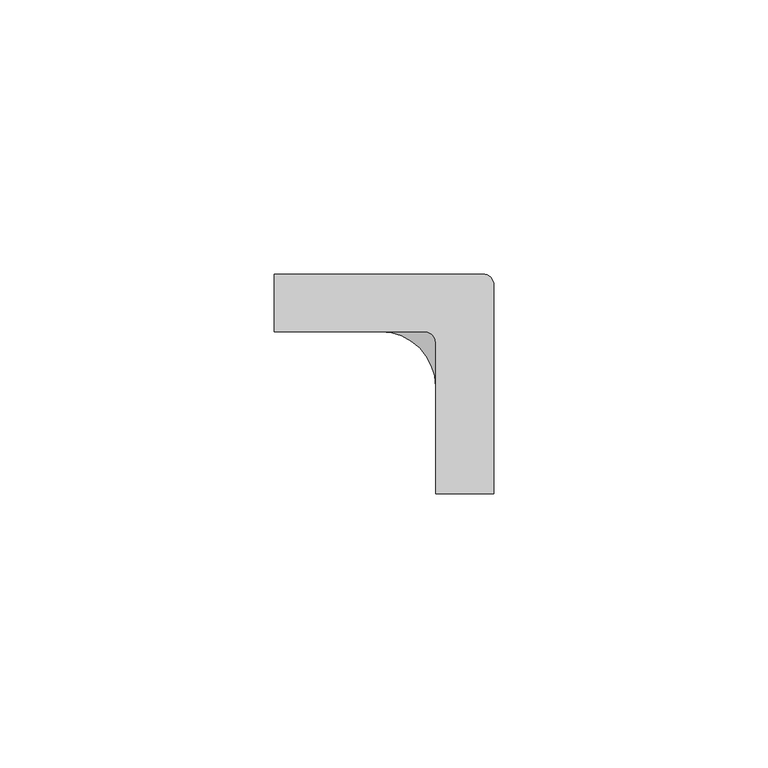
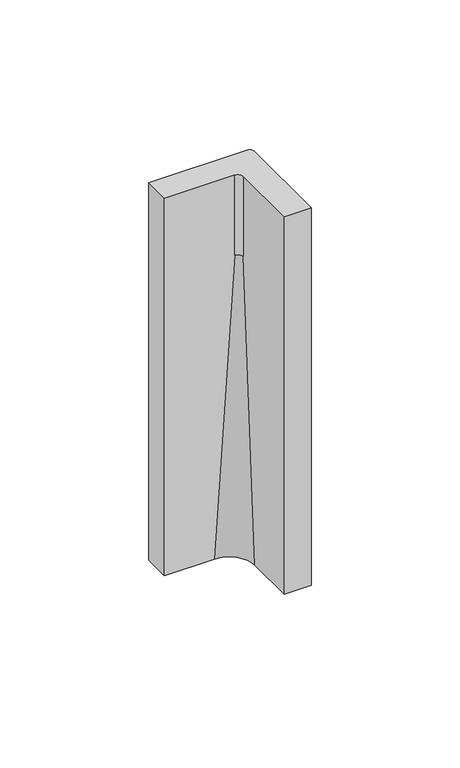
"""IFC4 building model written with IfcOpenShell, lengths in millimetres: proxy geometry, ROSA GRES_040A (corte) : Pieza 040A_Tresor_Java_Anti-Slip."""

import ifcopenshell
import ifcopenshell.guid

model = None  # the IFC model being written
_history = None  # IfcOwnerHistory: only IFC2X3 demands one
_inside = {}  # id of a spatial element -> (the spatial element, [elements in it])
_under = {}  # id of a project, library or spatial element -> (it, [spatial elements below it])
_declared = {}  # id of a project -> (the project, [libraries it declares])
_typed = {}  # id of a type object -> (the type object, [elements of that type])
_made_of = {}  # id of a material, layer set ... -> (it, [elements and type objects made of it])


def new_model(schema):
    """Start an empty IFC model of exactly this schema.

    Asked for "IFC4X3", IfcOpenShell would pick the latest addendum, in which some entities
    have other attributes; the version numbers below select the first issue.
    IFC2X3 requires an IfcOwnerHistory on every rooted entity: one is made here for all.
    """
    global model, _history
    if schema == "IFC4X3":
        model = ifcopenshell.file(schema_version=(4, 3, 0, 0))
    else:
        model = ifcopenshell.file(schema=schema)
    _inside.clear()
    _under.clear()
    _declared.clear()
    _typed.clear()
    _made_of.clear()
    _history = None
    if model.schema == "IFC2X3":
        org = make("IfcOrganization", Name="unknown")
        user = make(
            "IfcPersonAndOrganization",
            ThePerson=make("IfcPerson", FamilyName="unknown"),
            TheOrganization=org,
        )
        app = make(
            "IfcApplication",
            ApplicationDeveloper=org,
            Version="unknown",
            ApplicationFullName="unknown",
            ApplicationIdentifier="unknown",
        )
        _history = make(
            "IfcOwnerHistory",
            OwningUser=user,
            OwningApplication=app,
            ChangeAction="ADDED",
            CreationDate=0,
        )
    return model


def make(cls, **values):
    """One entity of the class cls with the attributes given. An attribute that is None is left unset."""
    return model.create_entity(
        cls, **{name: value for name, value in values.items() if value is not None}
    )


def rooted(cls, **values):
    """An entity with a GlobalId (a new one), such as an element, a storey or a relation."""
    return make(cls, GlobalId=ifcopenshell.guid.new(), OwnerHistory=_history, **values)


def si_unit(unit_type, name, prefix=None):
    """IfcSIUnit, for example si_unit("LENGTHUNIT", "METRE", prefix="MILLI")."""
    return make("IfcSIUnit", UnitType=unit_type, Prefix=prefix, Name=name)


def assignment(units):
    """IfcUnitAssignment: the units of a project."""
    return None if units is None else make("IfcUnitAssignment", Units=units)


def point(xyz):
    """IfcCartesianPoint."""
    return None if xyz is None else make("IfcCartesianPoint", Coordinates=xyz)


def direction(xyz):
    """IfcDirection."""
    return None if xyz is None else make("IfcDirection", DirectionRatios=xyz)


def frame(location, z_axis=None, x_axis=None):
    """IfcAxis2Placement3D, a coordinate frame: its origin and axes. An axis left out is left unset."""
    return make(
        "IfcAxis2Placement3D",
        Location=point(location),
        Axis=direction(z_axis),
        RefDirection=direction(x_axis),
    )


def origin():
    """The frame at (0, 0, 0) with its axes left unset."""
    return frame((0.0, 0.0, 0.0))


def place(relative_to, where):
    """IfcLocalPlacement: puts the frame where relative to a parent placement (None: the world)."""
    return make(
        "IfcLocalPlacement", PlacementRelTo=relative_to, RelativePlacement=where
    )


def context(
    kind, dimensions, precision=None, world=None, true_north=None, identifier=None
):
    """IfcGeometricRepresentationContext, for example the 3D "Model" context."""
    return make(
        "IfcGeometricRepresentationContext",
        ContextIdentifier=identifier,
        ContextType=kind,
        CoordinateSpaceDimension=dimensions,
        Precision=precision,
        WorldCoordinateSystem=world,
        TrueNorth=true_north,
    )


def project(units=None, contexts=None):
    """IfcProject with its units and contexts."""
    return rooted(
        "IfcProject",
        Name="project",
        RepresentationContexts=contexts,
        UnitsInContext=assignment(units),
    )


def spatial(cls, under=None, at=None, **own):
    """A site, building, storey or space (cls), placed at a placement, below another one or the project."""
    s = rooted(cls, ObjectPlacement=at, **own)
    if under is not None:
        _under.setdefault(under.id(), (under, []))[1].append(s)
    return s


def polyline(points):
    """IfcPolyline through the points."""
    return make("IfcPolyline", Points=[point(p) for p in points])


def circle_curve(where, radius):
    """IfcCircle in the frame where."""
    return make("IfcCircle", Position=where, Radius=radius)


def shape(context_of_items, identifier, shape_type, items):
    """IfcShapeRepresentation: the items that make up one representation, for example the "Body"."""
    return make(
        "IfcShapeRepresentation",
        ContextOfItems=context_of_items,
        RepresentationIdentifier=identifier,
        RepresentationType=shape_type,
        Items=items,
    )


def source(mapping_origin, context_of_items, identifier, shape_type, items):
    """IfcRepresentationMap: a shape defined once, which mapped items show again and again."""
    return make(
        "IfcRepresentationMap",
        MappingOrigin=mapping_origin,
        MappedRepresentation=shape(context_of_items, identifier, shape_type, items),
    )


def transform(
    local_origin,
    x_axis=None,
    y_axis=None,
    z_axis=None,
    scale=None,
    scale2=None,
    scale3=None,
    uniform=True,
):
    """IfcCartesianTransformationOperator3D, or its non-uniform kind. x_axis, y_axis, z_axis: its Axis1, 2, 3."""
    if uniform:
        return make(
            "IfcCartesianTransformationOperator3D",
            Axis1=direction(x_axis),
            Axis2=direction(y_axis),
            LocalOrigin=point(local_origin),
            Scale=scale,
            Axis3=direction(z_axis),
        )
    return make(
        "IfcCartesianTransformationOperator3DnonUniform",
        Axis1=direction(x_axis),
        Axis2=direction(y_axis),
        LocalOrigin=point(local_origin),
        Scale=scale,
        Axis3=direction(z_axis),
        Scale2=scale2,
        Scale3=scale3,
    )


def mapped(mapping_source, mapping_target):
    """IfcMappedItem: shows the shape of a source again, moved by a transform."""
    return make(
        "IfcMappedItem", MappingSource=mapping_source, MappingTarget=mapping_target
    )


def made_of(thing, what):
    """Note that an element or type object is made of a material, layer set ...; save() writes the relation."""
    if what is not None:
        _made_of.setdefault(what.id(), (what, []))[1].append(thing)
    return thing


def element(
    cls,
    number,
    at=None,
    inside=None,
    cuts=None,
    type_object=None,
    material=None,
    context=None,
    identifier="Body",
    shape_type=None,
    held_by="IfcProductDefinitionShape",
    body=None,
    shapes=None,
    **own,
):
    """One element of the class cls, such as IfcWall. Its Tag is "e" and its number.

    at: its placement. inside: the storey or other place that contains it. cuts: it is an
    opening in that element (IfcRelVoidsElement). A single representation is given by context,
    identifier, shape_type and body (its items); several are given by shapes. held_by: the class
    of the entity that holds the representations. save() writes the other relations.
    """
    e = rooted(cls, Tag="e%d" % number, ObjectPlacement=at, **own)
    if body is not None:
        shapes = [shape(context, identifier, shape_type, body)]
    if shapes is not None:
        e.Representation = make(held_by, Representations=shapes)
    if inside is not None:
        _inside.setdefault(inside.id(), (inside, []))[1].append(e)
    if cuts is not None:
        rooted(
            "IfcRelVoidsElement", RelatingBuildingElement=cuts, RelatedOpeningElement=e
        )
    if type_object is not None:
        _typed.setdefault(type_object.id(), (type_object, []))[1].append(e)
    return made_of(e, material)


def aggregate(whole, parts):
    """IfcRelAggregates: a whole, such as a stair, and the parts it consists of."""
    return rooted("IfcRelAggregates", RelatingObject=whole, RelatedObjects=parts)


def save(model, path):
    """Write the relations noted so far, then the file.

    IfcRelAggregates (storeys below a building ...), IfcRelContainedInSpatialStructure (elements
    in a storey), IfcRelDefinesByType, IfcRelAssociatesMaterial and IfcRelDeclares: one each for
    every whole, place, type object, material and project.
    """
    for whole, parts in _under.values():
        aggregate(whole, parts)
    for where, things in _inside.values():
        rooted(
            "IfcRelContainedInSpatialStructure",
            RelatedElements=things,
            RelatingStructure=where,
        )
    for kind, things in _typed.values():
        rooted("IfcRelDefinesByType", RelatedObjects=things, RelatingType=kind)
    for what, things in _made_of.values():
        rooted("IfcRelAssociatesMaterial", RelatedObjects=things, RelatingMaterial=what)
    for by, libraries in _declared.values():
        rooted("IfcRelDeclares", RelatingContext=by, RelatedDefinitions=libraries)
    model.write(path)


def plane_surface(at):
    """IfcPlane: the flat surface through the origin of the frame at, square to its z axis."""
    return make("IfcPlane", Position=at)


def cylinder_surface(at, radius):
    """IfcCylindricalSurface: all points at the distance radius from the z axis of the frame at."""
    return make("IfcCylindricalSurface", Position=at, Radius=radius)


def revolved_surface(curve, axis_point, axis_direction):
    """IfcSurfaceOfRevolution: the curve turned about the line through axis_point along axis_direction."""
    return make(
        "IfcSurfaceOfRevolution",
        SweptCurve=make("IfcArbitraryOpenProfileDef", ProfileType="CURVE", Curve=curve),
        AxisPosition=make("IfcAxis1Placement", Location=point(axis_point), Axis=direction(axis_direction)),
    )


def spline_surface(u_degree, v_degree, points, u_multiplicities, v_multiplicities, u_knots, v_knots, weights=None):
    """IfcBSplineSurfaceWithKnots; with weights, IfcRationalBSplineSurfaceWithKnots. points: one row for each step in u."""
    own = dict(
        UDegree=u_degree,
        VDegree=v_degree,
        ControlPointsList=[[point(p) for p in row] for row in points],
        SurfaceForm="UNSPECIFIED",
        UClosed=False,
        VClosed=False,
        SelfIntersect=False,
        UMultiplicities=u_multiplicities,
        VMultiplicities=v_multiplicities,
        UKnots=u_knots,
        VKnots=v_knots,
        KnotSpec="UNSPECIFIED",
    )
    if weights is None:
        return make("IfcBSplineSurfaceWithKnots", **own)
    return make("IfcRationalBSplineSurfaceWithKnots", WeightsData=weights, **own)


def advanced_brep(points, edges, surfaces, faces):
    """IfcAdvancedBrep: a solid bounded by faces that lie on surfaces and meet in shared edges.

    An edge is (start, end): straight between two places in points (the first is 0);
    or (start, end, curve); or (start, end, curve, False) where it runs against its curve.
    A face is (place in surfaces, loops), or (place, loops, False) where it looks against
    its surface's normal. A loop lists edges by number (the first is 1), with a minus sign
    where the edge is run from its end to its start. The first loop is the outer one.
    """
    corners = [point(p) for p in points]
    vertices = [make("IfcVertexPoint", VertexGeometry=c) for c in corners]
    made = []
    for start, end, *more in edges:
        made.append(
            make(
                "IfcEdgeCurve",
                EdgeStart=vertices[start],
                EdgeEnd=vertices[end],
                EdgeGeometry=more[0] if more else make("IfcPolyline", Points=[corners[start], corners[end]]),
                SameSense=more[1] if len(more) > 1 else True,
            )
        )
    hull = []
    for where, loops, *sense in faces:
        bounds = []
        for j, loop in enumerate(loops):
            ring = [make("IfcOrientedEdge", EdgeElement=made[abs(k) - 1], Orientation=k > 0) for k in loop]
            bounds.append(
                make(
                    "IfcFaceOuterBound" if j == 0 else "IfcFaceBound",
                    Bound=make("IfcEdgeLoop", EdgeList=ring),
                    Orientation=True,
                )
            )
        hull.append(make("IfcAdvancedFace", Bounds=bounds, FaceSurface=surfaces[where], SameSense=sense[0] if sense else True))
    return make("IfcAdvancedBrep", Outer=make("IfcClosedShell", CfsFaces=hull))


def generic_models_70f451dc(model_context):
    return source(origin(), model_context, "Body", "AdvancedBrep", [
        advanced_brep(
        [(-40.0650814, -10.5047871, 155.0), (-12.6043336, -10.5047871, 155.0), (-10.6043336, -12.5047871, 155.0), (-10.6043336, -40.0344708, 155.0), (0.0, -40.0735975, 155.0), (0.0, -2.0, 155.0), (-2.0, 0.0, 155.0), (-40.079289, 0.0, 155.0), (-12.6043336, -10.5047871, 122.0), (-10.6043336, -12.5047871, 122.0), (0.0, -2.0, 122.0), (-2.0, 0.0, 122.0), (-40.079289, 0.0, 0.0), (-17.0, 0.0, 0.0), (0.0, -17.0, 0.0), (0.0, -40.0735975, 0.0), (-10.6043336, -40.0344708, 0.0), (-10.6043336, -20.5047871, 0.0), (-20.6043336, -10.5047871, 0.0), (-40.0650814, -10.5047871, 0.0)],
        [
            (0, 1),
            (1, 2, circle_curve(frame((-12.6043336, -12.5047871, 155.0), z_axis=(0.0, 0.0, -1.0), x_axis=(1.0, 0.0, 0.0)), 2.0)),
            (2, 3),
            (3, 4),
            (4, 5),
            (5, 6, circle_curve(frame((-2.0, -2.0, 155.0), z_axis=(0.0, 0.0, 1.0), x_axis=(1.0, 0.0, 0.0)), 2.0)),
            (6, 7),
            (7, 0),
            (1, 8),
            (8, 9, circle_curve(frame((-12.6043336, -12.5047871, 122.0), z_axis=(0.0, 0.0, -1.0), x_axis=(1.0, 0.0, 0.0)), 2.0)),
            (9, 2),
            (5, 10),
            (10, 11, circle_curve(frame((-2.0, -2.0, 122.0), z_axis=(0.0, 0.0, 1.0), x_axis=(1.0, 0.0, 0.0)), 2.0)),
            (11, 6),
            (12, 13),
            (13, 14, circle_curve(frame((-17.0, -17.0, 0.0), z_axis=(0.0, 0.0, -1.0), x_axis=(1.0, 0.0, 0.0)), 17.0)),
            (14, 15),
            (15, 16),
            (16, 17),
            (17, 18, circle_curve(frame((-20.6043336, -20.5047871, 0.0), z_axis=(0.0, 0.0, 1.0), x_axis=(1.0, 0.0, 0.0)), 10.0)),
            (18, 19),
            (19, 12),
            (12, 7),
            (11, 13),
            (10, 14),
            (4, 15),
            (3, 16),
            (9, 17),
            (18, 8),
            (0, 19),
        ],
        [
            plane_surface(frame((-40.0650814, -10.5047871, 155.0), z_axis=(0.0, 0.0, 1.0), x_axis=(1.0, 0.0, 0.0))),
            revolved_surface(polyline([(-10.6043336, -12.5047871, 122.0), (-10.6043336, -12.5047871, 155.0)]), (-12.6043336, -12.5047871, 122.0), (0.0, 0.0, -1.0)),
            cylinder_surface(frame((-2.0, -2.0, 122.0), z_axis=(0.0, 0.0, 1.0), x_axis=(1.0, 0.0, 0.0)), 2.0),
            plane_surface(frame((-17.3696714, -17.3278037, 0.0), z_axis=(0.0, 0.0, -1.0), x_axis=(0.0, -1.0, 0.0))),
            plane_surface(frame((-21.0396445, 0.0, 122.0), z_axis=(0.0, 1.0, 0.0), x_axis=(1.0, 0.0, 0.0))),
            spline_surface(2, 1, [[(-2.0, 0.0, 122.0), (-17.0, 0.0, 0.0)], [(0.0, 0.0, 122.0), (0.0, 0.0, 0.0)], [(0.0, -2.0, 122.0), (0.0, -17.0, 0.0)]], [3, 3], [2, 2], [0.0, 1.0], [0.0, 1.0], weights=[[1.0, 1.0], [0.7071067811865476, 0.7071067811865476], [1.0, 1.0]]),
            plane_surface(frame((0.0, -21.0367988, 122.0), z_axis=(1.0, 0.0, 0.0), x_axis=(0.0, -1.0, 0.0))),
            plane_surface(frame((-5.3021668, -40.0540342, 122.0), z_axis=(-0.0036896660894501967, -0.9999931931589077, 0.0), x_axis=(-0.9999931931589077, 0.0036896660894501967, 0.0))),
            plane_surface(frame((-10.6043336, -26.269629, 122.0), z_axis=(-1.0, 0.0, 0.0), x_axis=(0.0, 1.0, 0.0))),
            plane_surface(frame((-26.3347075, -10.5047871, 122.0), z_axis=(0.0, -1.0, 0.0), x_axis=(-1.0, 0.0, 0.0))),
            plane_surface(frame((-40.0721852, -5.2523936, 122.0), z_axis=(-0.9999990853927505, -0.001352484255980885, 0.0), x_axis=(-0.001352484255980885, 0.9999990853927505, 0.0))),
            spline_surface(2, 1, [[(-10.6043336, -12.5047871, 122.0), (-10.6043336, -20.5047871, 0.0)], [(-10.6043336, -10.5047871, 122.0), (-10.604333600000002, -10.504787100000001, 0.0)], [(-12.6043336, -10.5047871, 122.0), (-20.6043336, -10.5047871, 0.0)]], [3, 3], [2, 2], [0.0, 1.0], [0.0, 1.0], weights=[[1.0, 1.0], [0.7071067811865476, 0.7071067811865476], [1.0, 1.0]]),
        ],
        [
            (0, [[1, 2, 3, 4, 5, 6, 7, 8]]),
            (1, [[-2, 9, 10, 11]]),
            (2, [[-6, 12, 13, 14]]),
            (3, [[15, 16, 17, 18, 19, 20, 21, 22]]),
            (4, [[-15, 23, -7, -14, 24]]),
            (5, [[-16, -24, -13, 25]]),
            (6, [[-17, -25, -12, -5, 26]]),
            (7, [[-18, -26, -4, 27]]),
            (8, [[-19, -27, -3, -11, 28]]),
            (9, [[-21, 29, -9, -1, 30]]),
            (10, [[-23, -22, -30, -8]]),
            (11, [[-20, -28, -10, -29]]),
        ],
    ),
    ])


if __name__ == "__main__":
    model = new_model("IFC4")
    model_context = context("Model", 3, world=origin())
    ifc_project = project(units=[si_unit("LENGTHUNIT", "METRE", prefix="MILLI")], contexts=[model_context])
    site = spatial("IfcSite", under=ifc_project)
    building = spatial("IfcBuilding", under=site)
    placement = place(None, origin())
    generic_models_shape = generic_models_70f451dc(model_context)
    element("IfcBuildingElementProxy", 1, Name="ROSA GRES_040A (corte) : Pieza 040A_Tresor_Java_Anti-Slip", ObjectType="ROSA GRES_040A (corte) : Pieza 040A_Tresor_Java_Anti-Slip", at=placement, inside=building, context=model_context, shape_type="MappedRepresentation", body=[
        mapped(generic_models_shape, transform((0.0, 0.0, 0.0), x_axis=(1.0, 0.0, 0.0), y_axis=(0.0, 1.0, 0.0), z_axis=(0.0, 0.0, 1.0))),
    ])
    save(model, "model.ifc")
